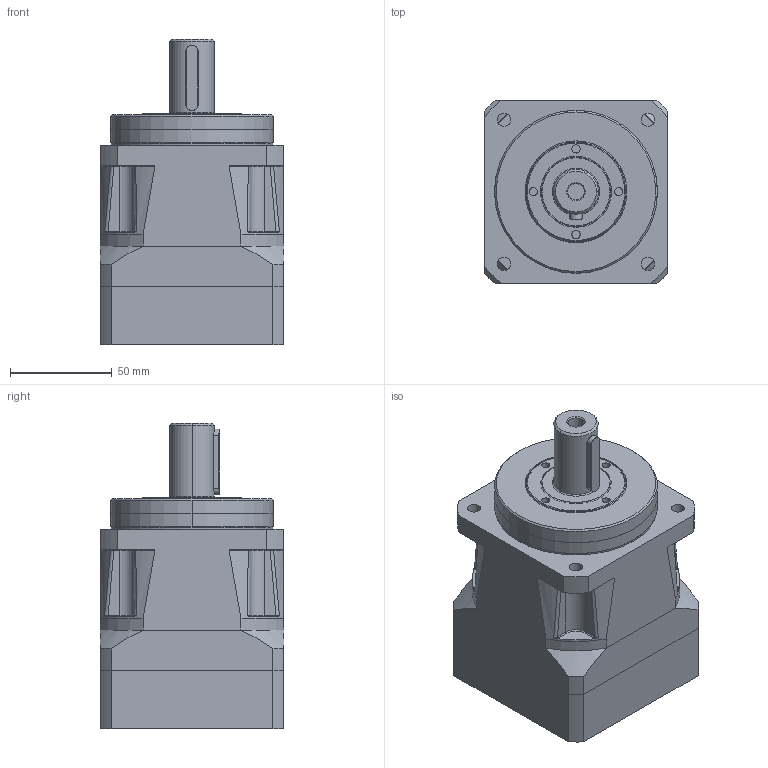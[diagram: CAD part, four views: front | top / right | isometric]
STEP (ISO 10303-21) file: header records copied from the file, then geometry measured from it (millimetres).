
FILE_DESCRIPTION((''),'2;1');
FILE_NAME('PS90-XXX-000-X2_ASM','2009-03-24T',('ata7311'),(''),'PRO/ENGINEER BY PARAMETRIC TECHNOLOGY CORPORATION, 2006300','PRO/ENGINEER BY PARAMETRIC TECHNOLOGY CORPORATION, 2006300','');
FILE_SCHEMA(('CONFIG_CONTROL_DESIGN'));
Products named in the file (15): 13325XXX; 13324000; HD202-0035; 10087124; 13320XXX_ASM; 13329000; 13330XXX; 13120001; 12292000; M5X20; 13322XXX_ASM; M5X16; 13134003; M5X25; PS90-XXX-000-X2_ASM
Assembly tree (21 placements, depth 3):
  PS90-XXX-000-X2_ASM
    13320XXX_ASM
      13325XXX
      13324000
      HD202-0035
      10087124
    13322XXX_ASM
      13329000
      13330XXX
      13120001
      12292000  x2
      M5X20
    M5X16  x4
    13134003
    M5X25  x4
Bounding box: 90 x 90 x 150 mm (x, y, z)
Volume: 548880.4 mm3; surface area: 144712.2 mm2
Topology: 19 solids, 19 shells, 580 faces, 1363 edges, 880 vertices
Faces by surface type: cylinder 247, plane 233, cone 52, torus 24, bspline 24
Entity records: 15903 total; most frequent: CARTESIAN_POINT 4394, DIRECTION 2489, ORIENTED_EDGE 2246, EDGE_CURVE 1123, AXIS2_PLACEMENT_3D 1009, VERTEX_POINT 722, EDGE_LOOP 555, CIRCLE 519
